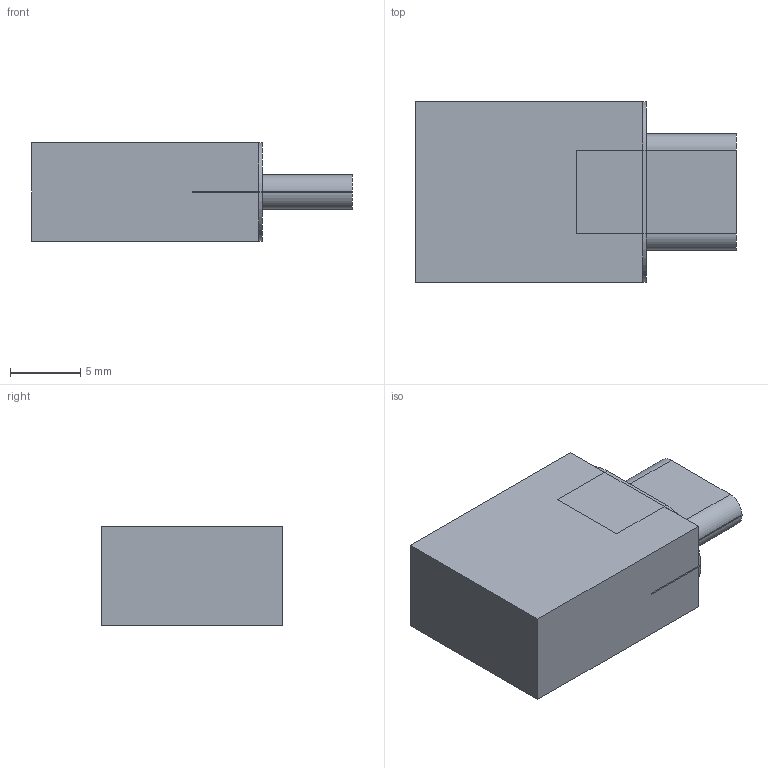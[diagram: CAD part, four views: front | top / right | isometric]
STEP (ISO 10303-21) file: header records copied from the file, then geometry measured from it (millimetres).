
FILE_DESCRIPTION(('Open CASCADE Model'),'2;1');
FILE_NAME('Open CASCADE Shape Model','2026-09-08T12:50:47',('Author'),( 'Open CASCADE'),'Open CASCADE STEP processor 7.7','Open CASCADE 7.7' ,'Unknown');
FILE_SCHEMA(('AUTOMOTIVE_DESIGN { 1 0 10303 214 1 1 1 1 }'));
Length unit declared in the file: millimetre
Products named in the file (1): Open CASCADE STEP translator 7.7 4
Bounding box: 22.8 x 12.85 x 7 mm (x, y, z)
Volume: 1595.9 mm3; surface area: 954.4 mm2
Topology: 1 solids, 1 shells, 31 faces, 76 edges, 48 vertices
Faces by surface type: plane 23, cylinder 8
Entity records: 1924 total; most frequent: CARTESIAN_POINT 356, DIRECTION 300, LINE 196, VECTOR 196, ORIENTED_EDGE 152, PCURVE 152, DEFINITIONAL_REPRESENTATION 152, EDGE_CURVE 76
